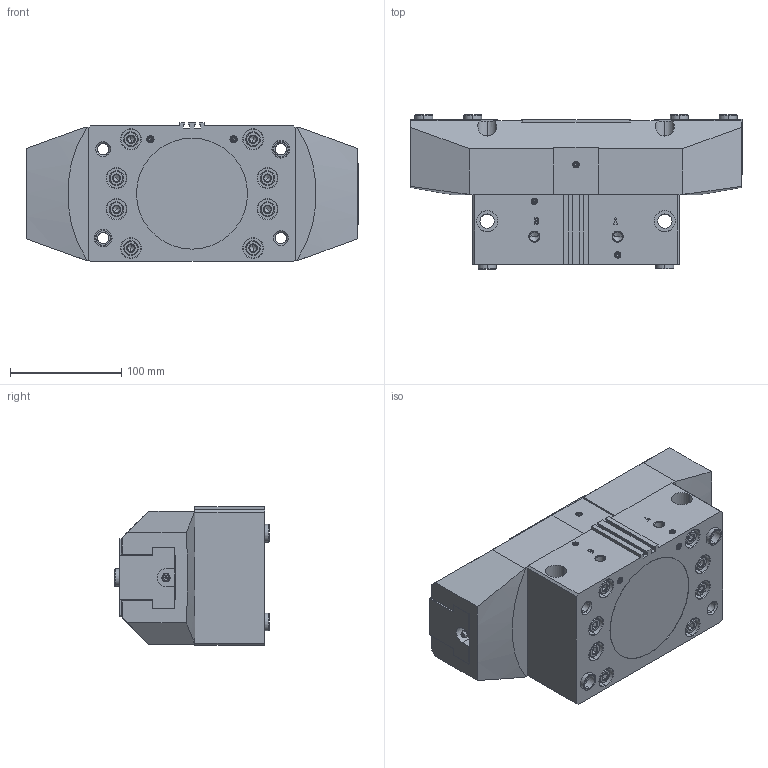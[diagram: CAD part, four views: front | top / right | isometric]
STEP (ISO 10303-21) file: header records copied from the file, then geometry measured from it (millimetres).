
FILE_DESCRIPTION (( 'STEP AP214' ), '1' );
FILE_NAME ('HP-NTS230H-M-Assy-61G292924-20241126-UC.STEP', '2024-11-26T06:04:22', ( '' ), ( '' ), 'SwSTEP 2.0', 'SolidWorks 2022', '' );
FILE_SCHEMA (( 'AUTOMOTIVE_DESIGN' ));
Length unit declared in the file: millimetre
Products named in the file (11): S-SARA^HP-NTS230H-M; S-TOME2^HP-NTS230H-M; BODY^HP-NTS230H-M; HP-NTS230H-M-Assy-61G292924-20241126-UC; REAR BODY^HP-NTS230H-M; MASTER JAW^HP-NTS230H-M; S-TOME1^HP-NTS230H-M; GREASE NIPPLE^HP-NTS230H-M; BUSH^HP-NTS230H-M; BOLT^HP-NTS230H-M; COVER^HP-NTS230H-M
Assembly tree (30 placements, depth 2):
  HP-NTS230H-M-Assy-61G292924-20241126-UC
    BODY^HP-NTS230H-M
    REAR BODY^HP-NTS230H-M
    MASTER JAW^HP-NTS230H-M  x2
    COVER^HP-NTS230H-M
    BUSH^HP-NTS230H-M  x6
    BOLT^HP-NTS230H-M  x8
    S-TOME1^HP-NTS230H-M  x3
    S-TOME2^HP-NTS230H-M  x2
    S-SARA^HP-NTS230H-M  x4
    GREASE NIPPLE^HP-NTS230H-M  x2
Bounding box: 299 x 138.7 x 125 mm (x, y, z)
Volume: 3381795.5 mm3; surface area: 392063.5 mm2
Topology: 30 solids, 30 shells, 973 faces, 2315 edges, 1425 vertices
Faces by surface type: plane 383, cone 294, cylinder 248, torus 28, bspline 16, sphere 4
Entity records: 18132 total; most frequent: CARTESIAN_POINT 4397, DIRECTION 2694, ORIENTED_EDGE 2574, EDGE_CURVE 1287, AXIS2_PLACEMENT_3D 986, VERTEX_POINT 813, VECTOR 722, LINE 722
